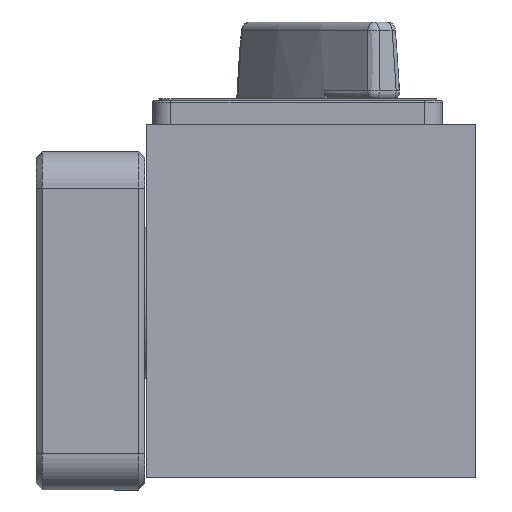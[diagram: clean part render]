
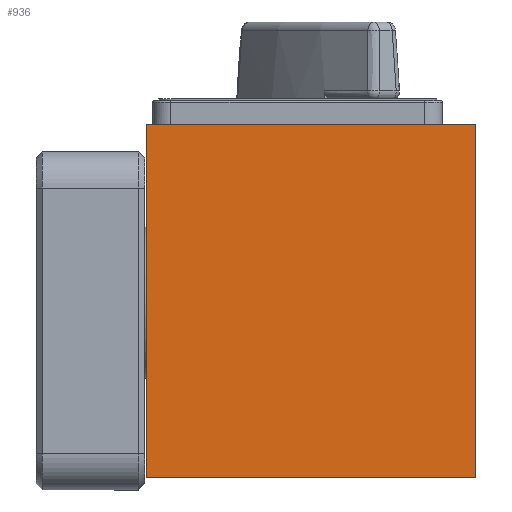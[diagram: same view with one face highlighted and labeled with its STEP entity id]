
A CAD part, left-side view. The second image highlights one B-rep face of the part: STEP entity #936.
In plain terms, the highlighted planar face has unit normal (-1, 0, 0).
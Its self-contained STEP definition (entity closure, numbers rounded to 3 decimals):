
#712=FACE_OUTER_BOUND('',#1149,.T.);
#753=PLANE('',#2676);
#936=ADVANCED_FACE('',(#712),#753,.T.);
#1149=EDGE_LOOP('',(#1688,#1689,#1690,#1691));
#1688=ORIENTED_EDGE('',*,*,#1956,.T.);
#1689=ORIENTED_EDGE('',*,*,#1959,.T.);
#1690=ORIENTED_EDGE('',*,*,#1961,.T.);
#1691=ORIENTED_EDGE('',*,*,#1962,.T.);
#1956=EDGE_CURVE('',#2537,#2536,#2220,.T.);
#1959=EDGE_CURVE('',#2536,#2538,#2223,.T.);
#1961=EDGE_CURVE('',#2538,#2539,#2225,.T.);
#1962=EDGE_CURVE('',#2539,#2537,#2226,.T.);
#2220=B_SPLINE_CURVE_WITH_KNOTS('',3,(#5336,#5337,#5338,#5339),
 .UNSPECIFIED.,.F.,.F.,(4,4),(0.,1.),.UNSPECIFIED.);
#2223=B_SPLINE_CURVE_WITH_KNOTS('',3,(#5351,#5352,#5353,#5354),
 .UNSPECIFIED.,.F.,.F.,(4,4),(0.,1.),.UNSPECIFIED.);
#2225=B_SPLINE_CURVE_WITH_KNOTS('',3,(#5361,#5362,#5363,#5364),
 .UNSPECIFIED.,.F.,.F.,(4,4),(0.,1.),.UNSPECIFIED.);
#2226=B_SPLINE_CURVE_WITH_KNOTS('',3,(#5366,#5367,#5368,#5369),
 .UNSPECIFIED.,.F.,.F.,(4,4),(0.,1.),.UNSPECIFIED.);
#2536=VERTEX_POINT('',#5335);
#2537=VERTEX_POINT('',#5340);
#2538=VERTEX_POINT('',#5350);
#2539=VERTEX_POINT('',#5360);
#2676=AXIS2_PLACEMENT_3D('',#5371,#2950,#2951);
#2950=DIRECTION('',(-1.,0.,0.));
#2951=DIRECTION('',(0.,0.,-1.));
#5335=CARTESIAN_POINT('',(-35.058,-66.522,-6.301));
#5336=CARTESIAN_POINT('',(-35.058,-12.022,-6.301));
#5337=CARTESIAN_POINT('',(-35.058,-30.189,-6.301));
#5338=CARTESIAN_POINT('',(-35.058,-48.355,-6.301));
#5339=CARTESIAN_POINT('',(-35.058,-66.522,-6.301));
#5340=CARTESIAN_POINT('',(-35.058,-12.022,-6.301));
#5350=CARTESIAN_POINT('',(-35.058,-66.522,52.199));
#5351=CARTESIAN_POINT('',(-35.058,-66.522,-6.301));
#5352=CARTESIAN_POINT('',(-35.058,-66.522,13.199));
#5353=CARTESIAN_POINT('',(-35.058,-66.522,32.699));
#5354=CARTESIAN_POINT('',(-35.058,-66.522,52.199));
#5360=CARTESIAN_POINT('',(-35.058,-12.022,52.199));
#5361=CARTESIAN_POINT('',(-35.058,-66.522,52.199));
#5362=CARTESIAN_POINT('',(-35.058,-48.355,52.199));
#5363=CARTESIAN_POINT('',(-35.058,-30.189,52.199));
#5364=CARTESIAN_POINT('',(-35.058,-12.022,52.199));
#5366=CARTESIAN_POINT('',(-35.058,-12.022,52.199));
#5367=CARTESIAN_POINT('',(-35.058,-12.022,32.699));
#5368=CARTESIAN_POINT('',(-35.058,-12.022,13.199));
#5369=CARTESIAN_POINT('',(-35.058,-12.022,-6.301));
#5371=CARTESIAN_POINT('',(-35.058,-66.522,-6.301));
